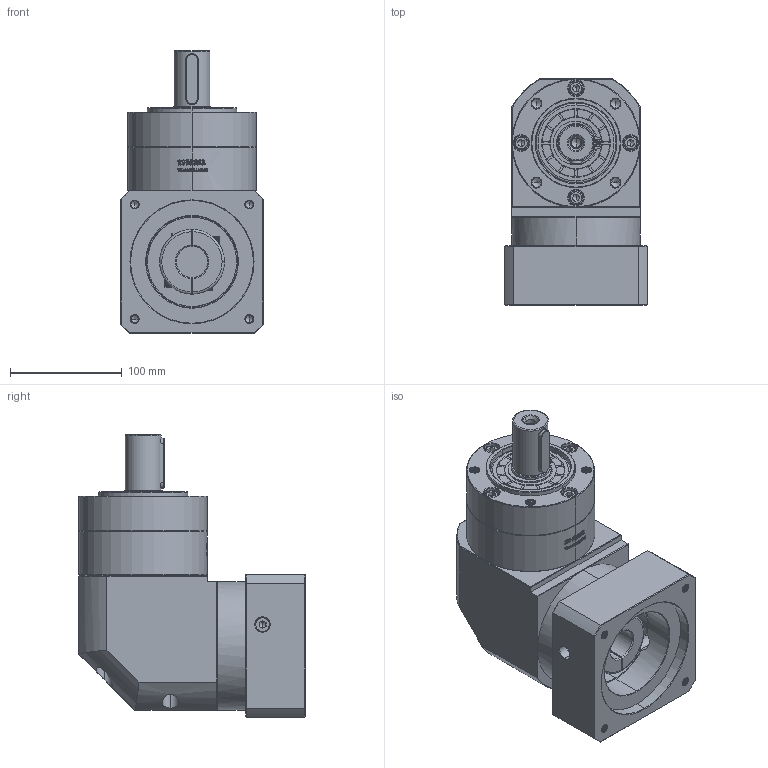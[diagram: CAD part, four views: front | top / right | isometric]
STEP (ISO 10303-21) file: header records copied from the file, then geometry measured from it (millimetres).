
FILE_DESCRIPTION (( 'STEP AP214' ), '1' );
FILE_NAME ('ZER120A-D32-L1-28-110-145-M8.step', '2023-03-14T08:21:28', ( '' ), ( '' ), 'SwSTEP 2.0', 'SolidWorks 2016', '' );
FILE_SCHEMA (( 'AUTOMOTIVE_DESIGN' ));
Length unit declared in the file: millimetre
Products named in the file (1): ZER120A-D32-L1-28-110-145-M8
Bounding box: 128 x 202.4 x 253 mm (x, y, z)
Volume: 3040239.3 mm3; surface area: 254759.7 mm2
Topology: 6 solids, 6 shells, 2956 faces, 7926 edges, 5111 vertices
Faces by surface type: plane 1464, bspline 619, cylinder 532, cone 333, torus 8
Entity records: 169590 total; most frequent: CARTESIAN_POINT 69845, ORIENTED_EDGE 15776, DIRECTION 11240, EDGE_CURVE 7888, VERTEX_POINT 5111, LINE 4806, VECTOR 4806, AXIS2_PLACEMENT_3D 3217
